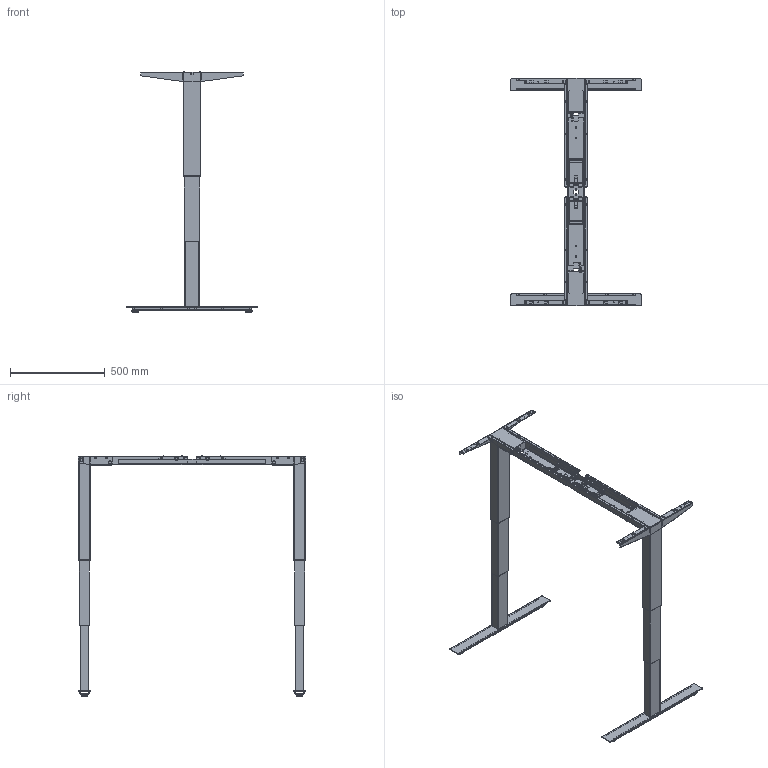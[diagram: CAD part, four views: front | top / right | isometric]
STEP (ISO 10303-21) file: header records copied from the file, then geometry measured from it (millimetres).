
FILE_DESCRIPTION(/* description */ ('Unknown'),/* implementation_level */ '2;1');
FILE_NAME(/* name */ '116.00077 Untergestell FC 650 3.0_ausgefahren',/* time_stamp */ '2018-07-09T11:31:26+02:00',/* author */ ('Unknown'),/* organization */ ('Unknown'),/* preprocessor_version */ 'ST-DEVELOPER v16.7',/* originating_system */ 'DEX',/* authorisation */ $);
FILE_SCHEMA (('AUTOMOTIVE_DESIGN {1 0 10303 214 3 1 1}'));
Products named in the file (2): 116.00077; FC 3.0_ausgefahren
Assembly tree (1 placements, depth 2):
  116.00077
    FC 3.0_ausgefahren
Bounding box: 690 x 1200 x 1265.8 mm (x, y, z)
Surface area: 1939965 mm2 (no closed solid volume)
Topology: 0 solids, 143 shells, 1322 faces, 6194 edges, 4828 vertices
Faces by surface type: plane 686, cylinder 496, torus 68, bspline 32, sphere 20, cone 20
Full cylindrical faces by diameter (mm): 5 x4, 5.5 x2, 7 x4, 7.6 x4, 8 x6, 8.5 x2, 10 x2, 14 x4, 16 x8
Entity records: 64133 total; most frequent: CARTESIAN_POINT 14284, DIRECTION 10404, ORIENTED_EDGE 8240, EDGE_CURVE 6102, VERTEX_POINT 4820, LINE 3792, VECTOR 3792, AXIS2_PLACEMENT_3D 3306
